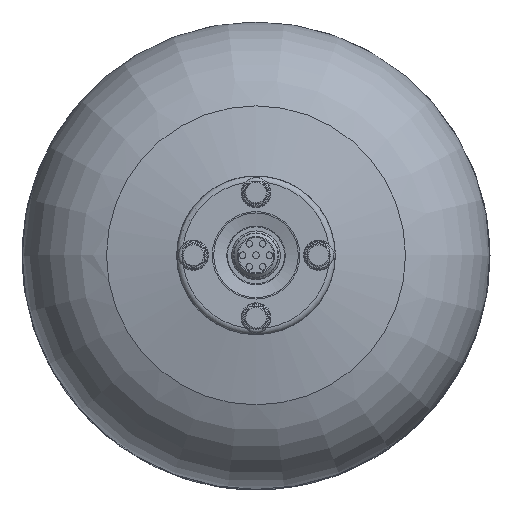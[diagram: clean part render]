
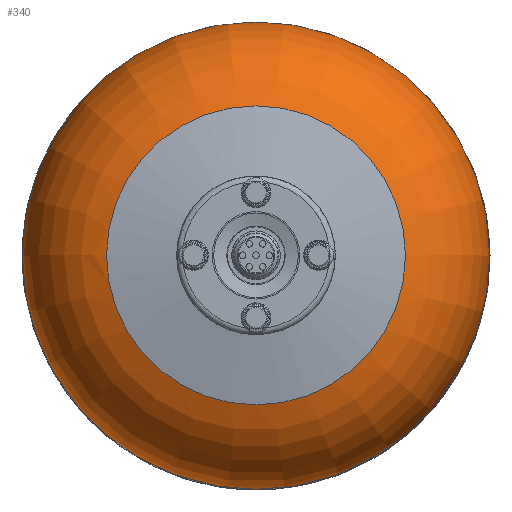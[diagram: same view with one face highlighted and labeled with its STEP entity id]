
A CAD part, top view. The second image highlights one B-rep face of the part: STEP entity #340.
In plain terms, the highlighted toroidal (fillet/blend) face has major radius 70 mm and minor radius 70 mm.
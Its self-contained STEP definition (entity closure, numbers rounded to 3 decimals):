
#340=ADVANCED_FACE('',(#2011,#2013),#2015,.T.);
#2011=FACE_BOUND('',#2012,.T.);
#2012=EDGE_LOOP('',(#4525,#4526));
#2013=FACE_OUTER_BOUND('',#2014,.T.);
#2014=EDGE_LOOP('',(#4527));
#2015=DEGENERATE_TOROIDAL_SURFACE('',#2016,70.,70.,.T.);
#2016=AXIS2_PLACEMENT_3D('',#2017,#2018,#2019);
#2017=CARTESIAN_POINT('',(0.,0.,142.396));
#2018=DIRECTION('',(0.,0.,1.));
#2019=DIRECTION('',(1.,0.,0.));
#4525=ORIENTED_EDGE('',*,*,#6659,.T.);
#4526=ORIENTED_EDGE('',*,*,#6660,.T.);
#4527=ORIENTED_EDGE('',*,*,#6661,.F.);
#6659=EDGE_CURVE('',#7235,#7236,#7237,.T.);
#6660=EDGE_CURVE('',#7236,#7235,#7238,.T.);
#6661=EDGE_CURVE('',#7239,#7239,#7240,.T.);
#7235=VERTEX_POINT('',#8647);
#7236=VERTEX_POINT('',#8648);
#7237=CIRCLE('',#8649,140.);
#7238=CIRCLE('',#8653,140.);
#7239=VERTEX_POINT('',#8657);
#7240=CIRCLE('',#8658,89.6);
#8647=CARTESIAN_POINT('',(140.,0.,142.396));
#8648=CARTESIAN_POINT('',(-140.,0.,142.396));
#8649=AXIS2_PLACEMENT_3D('',#8650,#8651,#8652);
#8650=CARTESIAN_POINT('',(0.,0.,142.396));
#8651=DIRECTION('',(0.,0.,1.));
#8652=DIRECTION('',(1.,0.,0.));
#8653=AXIS2_PLACEMENT_3D('',#8654,#8655,#8656);
#8654=CARTESIAN_POINT('',(0.,0.,142.396));
#8655=DIRECTION('',(0.,0.,1.));
#8656=DIRECTION('',(-1.,0.,0.));
#8657=CARTESIAN_POINT('',(-89.6,0.,209.596));
#8658=AXIS2_PLACEMENT_3D('',#8659,#8660,#8661);
#8659=CARTESIAN_POINT('',(0.,0.,209.596));
#8660=DIRECTION('',(0.,0.,1.));
#8661=DIRECTION('',(-1.,0.,0.));
